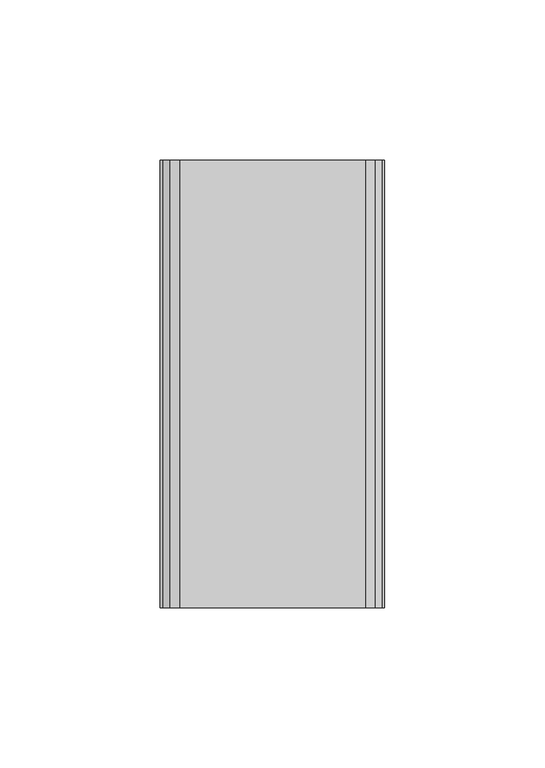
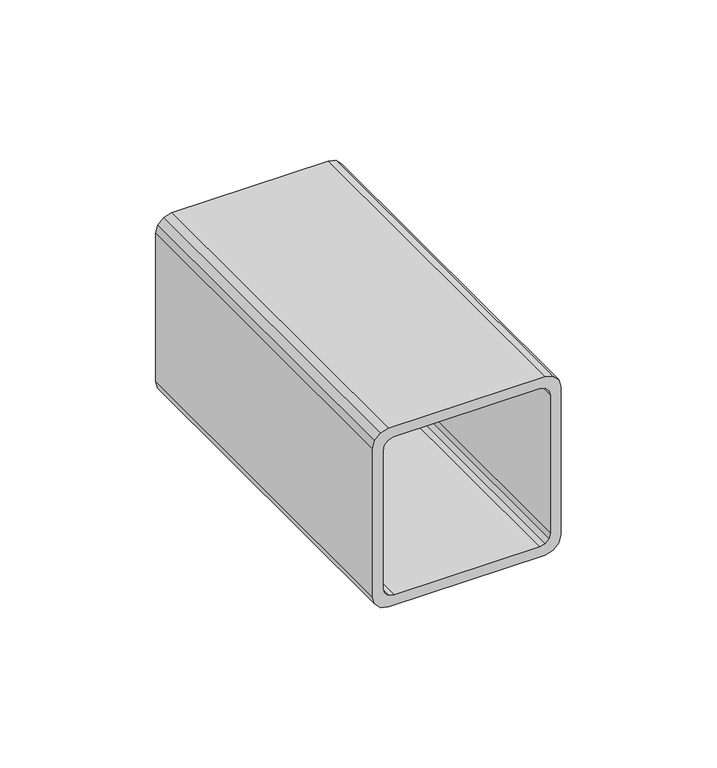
"""IFC4 building model written with IfcOpenShell, lengths in millimetres: beam geometry,  198413 :  198413."""

from ifc_helpers import new_model, si_unit, frame, origin, place, context, project, spatial, polyline, outline, extrude, source, transform, mapped, element, save


def beam_400ddd7d(model_context):
    return source(origin(), model_context, "Body", "SweptSolid", [
        extrude(outline(polyline([(7590.9478709, 22.8791579), (7587.9478709, 23.6830055), (7585.7517184, 25.8791579), (7584.9478709, 28.8791579), (7584.9478709, 86.8791579), (7585.7517184, 89.8791579), (7587.9478709, 92.0753103), (7590.9478709, 92.8791579), (7648.9478709, 92.8791579), (7651.9478709, 92.0753103), (7654.1440233, 89.8791579), (7654.9478709, 86.8791579), (7654.9478709, 28.8791579), (7654.1440233, 25.8791579), (7651.9478709, 23.6830055), (7648.9478709, 22.8791579), (7590.9478709, 22.8791579)]), holes=[polyline([(7646.9478709, 26.8791579), (7648.9478709, 27.4150563), (7650.4119725, 28.8791579), (7650.9478709, 30.8791579), (7650.9478709, 84.8791579), (7650.4119725, 86.8791579), (7648.9478709, 88.3432595), (7646.9478709, 88.8791579), (7592.9478709, 88.8791579), (7590.9478709, 88.3432595), (7589.4837692, 86.8791579), (7588.9478709, 84.8791579), (7588.9478709, 30.8791579), (7589.4837692, 28.8791579), (7590.9478709, 27.4150563), (7592.9478709, 26.8791579), (7646.9478709, 26.8791579)])]), frame((0.0, -114.45, 0.0), z_axis=(0.0, 1.0, 0.0), x_axis=(0.0, 0.0, 1.0)), (0.0, 0.0, 1.0), 139.45),
    ])


if __name__ == "__main__":
    model = new_model("IFC4")
    model_context = context("Model", 3, world=origin())
    ifc_project = project(units=[si_unit("LENGTHUNIT", "METRE", prefix="MILLI")], contexts=[model_context])
    site = spatial("IfcSite", under=ifc_project)
    building = spatial("IfcBuilding", under=site)
    placement = place(None, origin())
    beam_shape = beam_400ddd7d(model_context)
    element("IfcBeam", 1, ObjectType=" 198413 :  198413", at=placement, inside=building, context=model_context, shape_type="MappedRepresentation", body=[
        mapped(beam_shape, transform((0.0, 0.0, 0.0), x_axis=(1.0, 0.0, 0.0), y_axis=(0.0, 1.0, 0.0), z_axis=(0.0, 0.0, 1.0))),
    ])
    save(model, "model.ifc")
